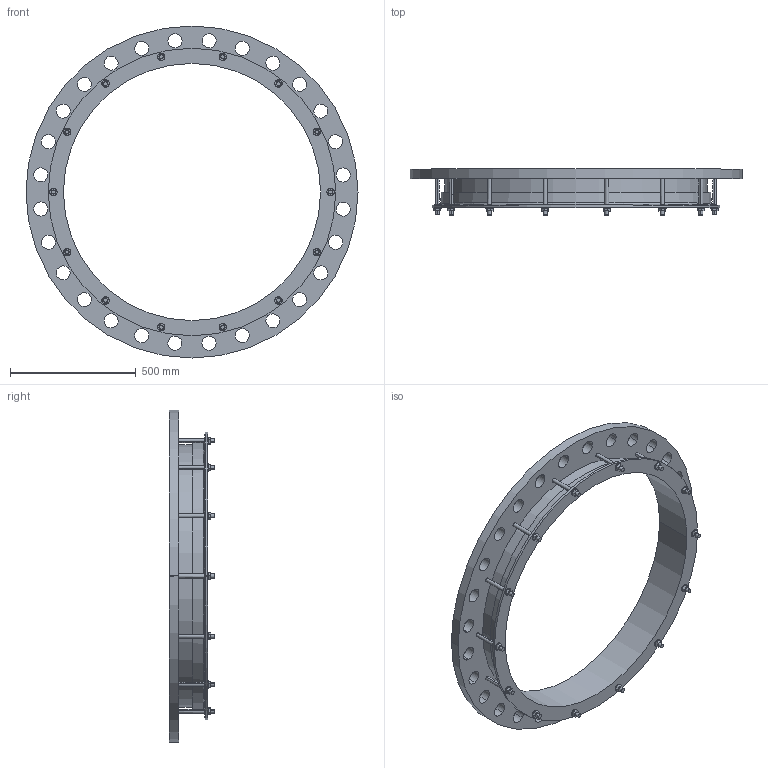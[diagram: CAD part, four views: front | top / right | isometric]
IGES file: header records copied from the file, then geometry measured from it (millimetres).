
Start section:  PTC IGES file: 1019x1000pn25.igs
Global section: file name: 1019x1000pn25.igs; native system: Creo Parametric by PTC Inc.; preprocessor: 2016130; author: mfairey; organization: Unknown; date: 20190404.150743; units: millimetre
Bounding box: 1320 x 182 x 1320 mm (x, y, z)
Surface area: 2584771.2 mm2 (no closed solid volume)
Topology: 0 solids, 0 shells, 284 faces, 1504 edges, 1504 vertices
Faces by surface type: revolution 154, bspline 130
